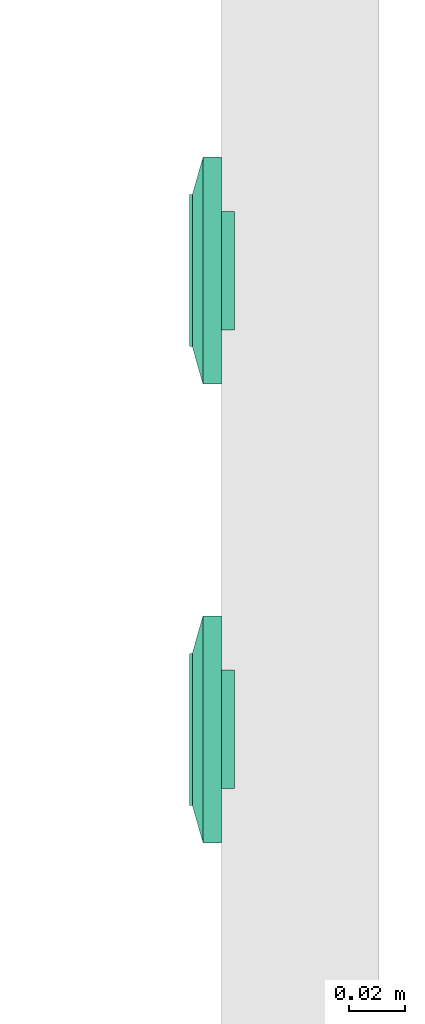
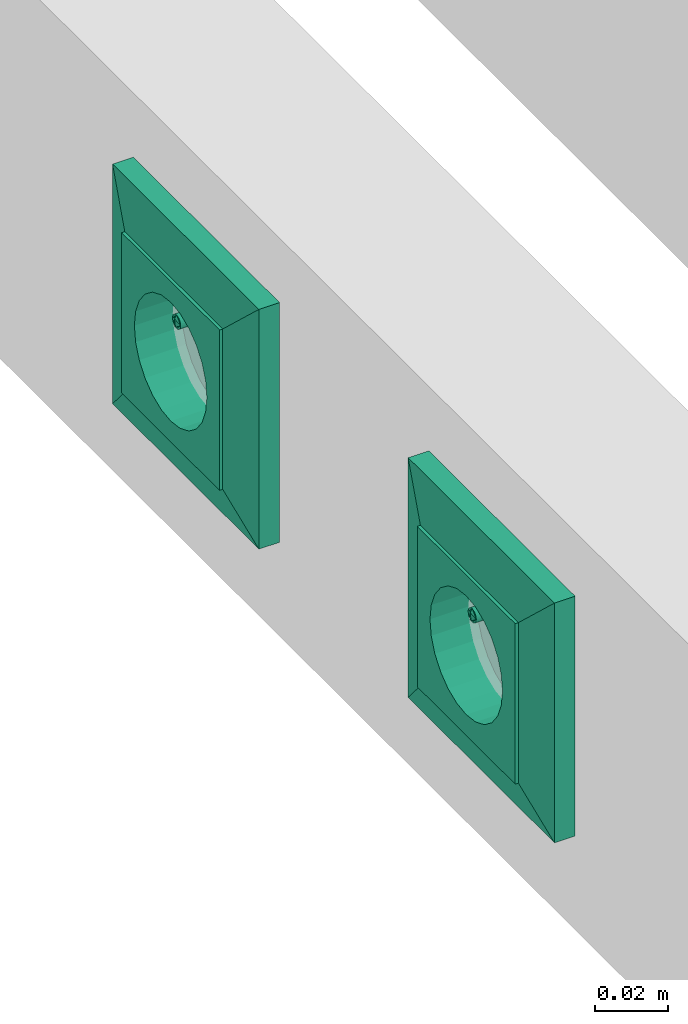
# One storey, part 47 of 166: 2 flow terminals.
"""IFC2X3 building model written with IfcOpenShell, lengths in metres."""

from ifc_helpers import new_model, entity, si_unit, converted_unit, derived_unit, direction, frame, origin, place, context, subcontext, project, spatial, face_set, surface_model, source, transform, mapped, type_object, type_shapes, element, save


model = new_model("IFC2X3")

# Units and contexts
model_context = context("Model", 3, precision=1e-05, world=origin(), true_north=direction((6.12303176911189e-17, 1.0)))
body_context = subcontext(model_context, "Body", "Model", "MODEL_VIEW")
ifc_project = project(units=[si_unit("LENGTHUNIT", "METRE"), si_unit("AREAUNIT", "SQUARE_METRE"), si_unit("VOLUMEUNIT", "CUBIC_METRE"), converted_unit("PLANEANGLEUNIT", "DEGREE", entity("IfcRatioMeasure", 0.0174532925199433), si_unit("PLANEANGLEUNIT", "RADIAN"), dimensions=[0, 0, 0, 0, 0, 0, 0]), si_unit("MASSUNIT", "GRAM", prefix="KILO"), derived_unit("MASSDENSITYUNIT", [(si_unit("MASSUNIT", "GRAM", prefix="KILO"), 1), (si_unit("LENGTHUNIT", "METRE"), -3)]), si_unit("TIMEUNIT", "SECOND"), si_unit("FREQUENCYUNIT", "HERTZ"), si_unit("THERMODYNAMICTEMPERATUREUNIT", "DEGREE_CELSIUS"), derived_unit("THERMALTRANSMITTANCEUNIT", [(si_unit("MASSUNIT", "GRAM", prefix="KILO"), 1), (si_unit("THERMODYNAMICTEMPERATUREUNIT", "KELVIN"), -1), (si_unit("TIMEUNIT", "SECOND"), -3)]), derived_unit("VOLUMETRICFLOWRATEUNIT", [(si_unit("LENGTHUNIT", "METRE"), 3), (si_unit("TIMEUNIT", "SECOND"), -1)]), si_unit("ELECTRICCURRENTUNIT", "AMPERE"), si_unit("ELECTRICVOLTAGEUNIT", "VOLT"), si_unit("POWERUNIT", "WATT"), si_unit("FORCEUNIT", "NEWTON"), si_unit("ILLUMINANCEUNIT", "LUX"), si_unit("LUMINOUSFLUXUNIT", "LUMEN"), si_unit("LUMINOUSINTENSITYUNIT", "CANDELA"), derived_unit("USERDEFINED", [(si_unit("MASSUNIT", "GRAM", prefix="KILO"), -1), (si_unit("LENGTHUNIT", "METRE"), -2), (si_unit("TIMEUNIT", "SECOND"), 3), (si_unit("LUMINOUSFLUXUNIT", "LUMEN"), 1)]), derived_unit("LINEARVELOCITYUNIT", [(si_unit("LENGTHUNIT", "METRE"), 1), (si_unit("TIMEUNIT", "SECOND"), -1)]), si_unit("PRESSUREUNIT", "PASCAL"), derived_unit("USERDEFINED", [(si_unit("LENGTHUNIT", "METRE"), -2), (si_unit("MASSUNIT", "GRAM", prefix="KILO"), 1), (si_unit("TIMEUNIT", "SECOND"), -2)])], contexts=[model_context])

# Site, building, storey
site_placement = place(None, origin())
site = spatial("IfcSite", under=ifc_project, at=site_placement, Name="Default", CompositionType="ELEMENT")
building_placement = place(site_placement, origin())
building = spatial("IfcBuilding", under=site, at=building_placement, CompositionType="ELEMENT")
storey_placement = place(building_placement, frame((0.0, 0.0, 4.27)))
storey = spatial("IfcBuildingStorey", under=building, at=storey_placement, Name="01", CompositionType="ELEMENT", Elevation=4.27)

# Flow terminals
light_fixture_type = type_object("IfcLightFixtureType", Name="IP20 ONDULEE", PredefinedType="NOTDEFINED")
shared_shape = source(origin(), body_context, "Body", "SurfaceModel", [
    surface_model("IfcFaceBasedSurfaceModel", [(-0.00225000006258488, 0.0127499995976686, 0.00949633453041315), (0.0, 0.0104999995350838, 0.00949633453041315), (0.0, 0.0115376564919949, 0.0101656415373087), (0.0, 0.0139623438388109, 0.0101656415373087), (0.0, 0.0144589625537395, 0.00984531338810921), (0.0, 0.0121178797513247, 0.0102778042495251), (0.0, 0.0133821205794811, 0.0102778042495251), (0.0, 0.0127499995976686, 0.010399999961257), (0.0, 0.0149999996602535, 0.00949633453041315), (0.00225000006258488, 0.0127499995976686, 0.00949633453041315), (0.0, 0.0110410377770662, 0.00984531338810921), (0.0, 0.0127499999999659, 0.00949633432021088), (0.00225000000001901, 0.0127499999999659, 0.00949633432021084), (0.00217333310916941, 0.0121676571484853, 0.00949633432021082), (0.00194855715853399, 0.0116249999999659, 0.00949633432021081), (0.00159099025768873, 0.0111590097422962, 0.00949633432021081), (0.001125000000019, 0.010801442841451, 0.00949633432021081), (0.00058234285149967, 0.0105766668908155, 0.00949633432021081), (0.0, 0.0104999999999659, 0.00949633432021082), (-0.000582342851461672, 0.0105766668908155, 0.00949633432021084), (-0.001124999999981, 0.010801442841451, 0.00949633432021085), (-0.00159099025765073, 0.0111590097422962, 0.00949633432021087), (-0.00194855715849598, 0.011624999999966, 0.00949633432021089), (-0.0021733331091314, 0.0121676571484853, 0.00949633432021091), (-0.00224999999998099, 0.012749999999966, 0.00949633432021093), (-0.00217333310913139, 0.0133323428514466, 0.00949633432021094), (-0.00194855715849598, 0.013874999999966, 0.00949633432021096), (-0.00159099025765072, 0.0143409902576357, 0.00949633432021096), (-0.00112499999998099, 0.0146985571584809, 0.00949633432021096), (-0.00058234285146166, 0.0149233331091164, 0.00949633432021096), (0.0, 0.0149999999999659, 0.00949633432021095), (0.000582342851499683, 0.0149233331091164, 0.00949633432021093), (0.00112500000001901, 0.0146985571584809, 0.00949633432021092), (0.00159099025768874, 0.0143409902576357, 0.00949633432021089), (0.001948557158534, 0.0138749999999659, 0.00949633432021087), (0.00217333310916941, 0.0133323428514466, 0.00949633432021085), (0.00225000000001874, 0.0127499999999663, -0.00360000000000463), (0.00217333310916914, 0.0121676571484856, -0.00360000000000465), (0.00194855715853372, 0.0116249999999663, -0.00360000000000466), (0.00159099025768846, 0.0111590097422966, -0.00360000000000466), (0.00112500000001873, 0.0108014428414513, -0.00360000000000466), (0.000582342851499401, 0.0105766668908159, -0.00360000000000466), (0.0, 0.0104999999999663, -0.00360000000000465), (-0.000582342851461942, 0.0105766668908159, -0.00360000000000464), (-0.00112499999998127, 0.0108014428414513, -0.00360000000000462), (-0.001590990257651, 0.0111590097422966, -0.0036000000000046), (-0.00194855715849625, 0.0116249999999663, -0.00360000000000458), (-0.00217333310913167, 0.0121676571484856, -0.00360000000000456), (-0.00224999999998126, 0.0127499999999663, -0.00360000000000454), (-0.00217333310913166, 0.013332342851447, -0.00360000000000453), (-0.00194855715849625, 0.0138749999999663, -0.00360000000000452), (-0.00159099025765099, 0.014340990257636, -0.00360000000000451), (-0.00112499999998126, 0.0146985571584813, -0.00360000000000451), (-0.000582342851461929, 0.0149233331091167, -0.00360000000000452), (0.0, 0.0149999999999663, -0.00360000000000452), (0.000582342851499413, 0.0149233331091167, -0.00360000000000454), (0.00112500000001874, 0.0146985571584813, -0.00360000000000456), (0.00159099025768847, 0.014340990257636, -0.00360000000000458), (0.00194855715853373, 0.0138749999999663, -0.0036000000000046), (0.00217333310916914, 0.013332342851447, -0.00360000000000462), (0.0270000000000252, 0.026999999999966, 0.0113999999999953), (-0.0269999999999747, 0.026999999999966, 0.0113999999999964), (-0.0269999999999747, -0.0270000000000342, 0.0113999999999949), (0.0270000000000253, -0.0270000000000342, 0.0113999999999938), (-0.0199999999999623, 0.0, 0.0113999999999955), (-0.0193185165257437, -0.00517638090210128, 0.0113999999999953), (-0.0173205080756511, -0.0100000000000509, 0.0113999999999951), (-0.0141421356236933, -0.0141421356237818, 0.011399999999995), (-0.00999999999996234, -0.0173205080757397, 0.0113999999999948), (-0.00517638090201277, -0.0193185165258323, 0.0113999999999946), (0.0, -0.0200000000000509, 0.0113999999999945), (0.00517638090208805, -0.0193185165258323, 0.0113999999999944), (0.0100000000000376, -0.0173205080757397, 0.0113999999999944), (0.0141421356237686, -0.0141421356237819, 0.0113999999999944), (0.0173205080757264, -0.010000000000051, 0.0113999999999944), (0.0193185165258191, -0.00517638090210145, 0.0113999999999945), (0.0200000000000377, 0.0, 0.0113999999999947), (0.0193185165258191, 0.00517638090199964, 0.0113999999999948), (0.0173205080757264, 0.0099999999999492, 0.011399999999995), (0.0141421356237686, 0.0141421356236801, 0.0113999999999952), (0.0100000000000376, 0.0173205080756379, 0.0113999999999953), (0.00517638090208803, 0.0193185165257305, 0.0113999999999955), (0.0, 0.0199999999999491, 0.0113999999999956), (-0.00517638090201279, 0.0193185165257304, 0.0113999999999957), (-0.00999999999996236, 0.0173205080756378, 0.0113999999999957), (-0.0141421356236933, 0.01414213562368, 0.0113999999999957), (-0.0173205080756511, 0.00999999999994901, 0.0113999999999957), (-0.0193185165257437, 0.00517638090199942, 0.0113999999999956), (0.0270000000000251, 0.0269999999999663, 0.00199999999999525), (0.0270000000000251, -0.0270000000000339, 0.00199999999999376), (-0.0269999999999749, -0.0270000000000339, 0.00199999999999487), (-0.0269999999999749, 0.0269999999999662, 0.00199999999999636), (0.0210000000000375, 0.0, 0.00199999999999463), (0.0202844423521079, -0.00543519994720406, 0.00199999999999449), (0.0181865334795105, -0.0105000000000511, 0.0019999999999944), (0.0148492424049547, -0.0148492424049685, 0.00199999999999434), (0.0105000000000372, -0.0181865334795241, 0.00199999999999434), (0.0054351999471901, -0.0202844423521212, 0.00199999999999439), (0.0, -0.0210000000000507, 0.00199999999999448), (-0.00543519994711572, -0.020284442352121, 0.00199999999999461), (-0.0104999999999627, -0.0181865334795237, 0.00199999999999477), (-0.0148492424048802, -0.014849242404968, 0.00199999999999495), (-0.0181865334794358, -0.0105000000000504, 0.00199999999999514), (-0.020284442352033, -0.00543519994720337, 0.00199999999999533), (-0.0209999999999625, 0.0, 0.00199999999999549), (-0.0202844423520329, 0.0054351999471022, 0.00199999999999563), (-0.0181865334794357, 0.0104999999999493, 0.00199999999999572), (-0.01484924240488, 0.0148492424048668, 0.00199999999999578), (-0.0104999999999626, 0.0181865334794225, 0.00199999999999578), (-0.00543519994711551, 0.0202844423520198, 0.00199999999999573), (0.0, 0.0209999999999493, 0.00199999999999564), (0.00543519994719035, 0.0202844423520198, 0.00199999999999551), (0.0105000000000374, 0.0181865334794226, 0.00199999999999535), (0.0148492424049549, 0.0148492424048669, 0.00199999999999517), (0.0181865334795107, 0.0104999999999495, 0.00199999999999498), (0.0202844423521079, 0.00543519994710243, 0.00199999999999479), (0.0200000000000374, 0.0, -0.00360000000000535), (0.0193185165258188, -0.00517638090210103, -0.00360000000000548), (0.0173205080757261, -0.0100000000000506, -0.00360000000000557), (0.0141421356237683, -0.0141421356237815, -0.00360000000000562), (0.0100000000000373, -0.0173205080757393, -0.00360000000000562), (0.00517638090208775, -0.0193185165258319, -0.00360000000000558), (0.0, -0.0200000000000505, -0.00360000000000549), (-0.00517638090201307, -0.0193185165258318, -0.00360000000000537), (-0.00999999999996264, -0.0173205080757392, -0.00360000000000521), (-0.0141421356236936, -0.0141421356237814, -0.00360000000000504), (-0.0173205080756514, -0.0100000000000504, -0.00360000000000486), (-0.019318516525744, -0.00517638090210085, -0.00360000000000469), (-0.0199999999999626, 0.0, -0.00360000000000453), (-0.0193185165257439, 0.00517638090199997, -0.0036000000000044), (-0.0173205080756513, 0.00999999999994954, -0.00360000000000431), (-0.0141421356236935, 0.0141421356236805, -0.00360000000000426), (-0.00999999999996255, 0.0173205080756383, -0.00360000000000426), (-0.00517638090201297, 0.0193185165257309, -0.0036000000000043), (0.0, 0.0199999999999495, -0.00360000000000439), (0.00517638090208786, 0.0193185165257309, -0.00360000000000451), (0.0100000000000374, 0.0173205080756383, -0.00360000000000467), (0.0141421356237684, 0.0141421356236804, -0.00360000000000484), (0.0173205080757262, 0.0099999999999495, -0.00360000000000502), (0.0193185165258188, 0.00517638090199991, -0.00360000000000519), (-0.0123499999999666, 0.0, -0.00360000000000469), (-0.0122562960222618, -0.000711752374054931, -0.00360000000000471), (-0.0119815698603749, -0.00137500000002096, -0.00360000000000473), (-0.0115445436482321, -0.00194454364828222, -0.00360000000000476), (-0.0109749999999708, -0.00238156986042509, -0.00360000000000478), (-0.0103117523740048, -0.00265629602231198, -0.0036000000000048), (-0.00959999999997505, -0.00275000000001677, -0.00360000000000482), (-0.0088882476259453, -0.00265629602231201, -0.00360000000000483), (-0.00822499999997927, -0.00238156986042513, -0.00360000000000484), (-0.00765545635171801, -0.00194454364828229, -0.00360000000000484), (-0.00721843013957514, -0.00137500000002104, -0.00360000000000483), (-0.00694370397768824, -0.000711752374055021, -0.00360000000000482), (-0.00684999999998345, 0.0, -0.0036000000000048), (-0.00694370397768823, 0.000711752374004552, -0.00360000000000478), (-0.00721843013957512, 0.00137499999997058, -0.00360000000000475), (-0.00765545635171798, 0.00194454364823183, -0.00360000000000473), (-0.00822499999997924, 0.00238156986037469, -0.0036000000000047), (-0.00888824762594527, 0.00265629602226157, -0.00360000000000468), (-0.00959999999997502, 0.00274999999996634, -0.00360000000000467), (-0.0103117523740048, 0.00265629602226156, -0.00360000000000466), (-0.0109749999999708, 0.00238156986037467, -0.00360000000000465), (-0.011544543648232, 0.00194454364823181, -0.00360000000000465), (-0.0119815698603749, 0.00137499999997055, -0.00360000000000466), (-0.0122562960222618, 0.000711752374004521, -0.00360000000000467), (0.00685000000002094, 0.0, -0.00360000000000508), (0.0069437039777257, -0.00071175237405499, -0.0036000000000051), (0.00721843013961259, -0.00137500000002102, -0.00360000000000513), (0.00765545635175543, -0.00194454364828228, -0.00360000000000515), (0.00822500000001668, -0.00238156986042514, -0.00360000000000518), (0.00888824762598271, -0.00265629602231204, -0.0036000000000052), (0.00960000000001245, -0.00275000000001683, -0.00360000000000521), (0.0103117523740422, -0.00265629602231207, -0.00360000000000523), (0.0109750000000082, -0.00238156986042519, -0.00360000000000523), (0.0115445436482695, -0.00194454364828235, -0.00360000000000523), (0.0119815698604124, -0.0013750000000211, -0.00360000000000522), (0.0122562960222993, -0.00071175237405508, -0.00360000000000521), (0.012350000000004, 0.0, -0.00360000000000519), (0.0122562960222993, 0.000711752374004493, -0.00360000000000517), (0.0119815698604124, 0.00137499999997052, -0.00360000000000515), (0.0115445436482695, 0.00194454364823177, -0.00360000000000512), (0.0109750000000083, 0.00238156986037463, -0.0036000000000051), (0.0103117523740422, 0.00265629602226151, -0.00360000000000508), (0.00960000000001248, 0.00274999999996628, -0.00360000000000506), (0.00888824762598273, 0.0026562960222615, -0.00360000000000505), (0.0082250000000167, 0.00238156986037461, -0.00360000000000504), (0.00765545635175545, 0.00194454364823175, -0.00360000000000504), (0.0072184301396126, 0.00137499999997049, -0.00360000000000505), (0.00694370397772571, 0.000711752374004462, -0.00360000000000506), (0.0210000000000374, 0.0, -0.00460000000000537), (0.0202844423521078, -0.00543519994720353, -0.00460000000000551), (0.0181865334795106, -0.0105000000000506, -0.0046000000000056), (0.0148492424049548, -0.0148492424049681, -0.00460000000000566), (0.0105000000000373, -0.0181865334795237, -0.00460000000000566), (0.00543519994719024, -0.0202844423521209, -0.00460000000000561), (0.0, -0.0210000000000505, -0.00460000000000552), (-0.00543519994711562, -0.0202844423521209, -0.00460000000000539), (-0.0104999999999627, -0.0181865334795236, -0.00460000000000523), (-0.0148492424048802, -0.0148492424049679, -0.00460000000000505), (-0.0181865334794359, -0.0105000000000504, -0.00460000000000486), (-0.0202844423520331, -0.00543519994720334, -0.00460000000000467), (-0.0209999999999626, 0.0, -0.00460000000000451), (-0.020284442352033, 0.00543519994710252, -0.00460000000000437), (-0.0181865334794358, 0.0104999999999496, -0.00460000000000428), (-0.0148492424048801, 0.0148492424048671, -0.00460000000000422), (-0.0104999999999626, 0.0181865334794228, -0.00460000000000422), (-0.00543519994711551, 0.02028444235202, -0.00460000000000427), (0.0, 0.0209999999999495, -0.00460000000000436), (0.00543519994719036, 0.02028444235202, -0.00460000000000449), (0.0105000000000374, 0.0181865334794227, -0.00460000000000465), (0.0148492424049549, 0.014849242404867, -0.00460000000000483), (0.0181865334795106, 0.0104999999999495, -0.00460000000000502), (0.0202844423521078, 0.00543519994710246, -0.00460000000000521), (-0.00684999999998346, 0.0, -0.0046000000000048), (-0.00694370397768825, 0.000711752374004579, -0.00460000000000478), (-0.00721843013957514, 0.00137499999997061, -0.00460000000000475), (-0.007655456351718, 0.00194454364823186, -0.00460000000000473), (-0.00822499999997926, 0.00238156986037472, -0.0046000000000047), (-0.00888824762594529, 0.0026562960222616, -0.00460000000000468), (-0.00959999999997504, 0.00274999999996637, -0.00460000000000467), (-0.0103117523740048, 0.00265629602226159, -0.00460000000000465), (-0.0109749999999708, 0.0023815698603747, -0.00460000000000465), (-0.0115445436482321, 0.00194454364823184, -0.00460000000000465), (-0.0119815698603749, 0.00137499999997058, -0.00460000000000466), (-0.0122562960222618, 0.000711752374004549, -0.00460000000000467), (-0.0123499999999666, 0.0, -0.00460000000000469), (-0.0122562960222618, -0.000711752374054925, -0.00460000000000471), (-0.0119815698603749, -0.00137500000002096, -0.00460000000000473), (-0.0115445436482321, -0.00194454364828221, -0.00460000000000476), (-0.0109749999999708, -0.00238156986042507, -0.00460000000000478), (-0.0103117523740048, -0.00265629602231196, -0.0046000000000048), (-0.00959999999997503, -0.00275000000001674, -0.00460000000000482), (-0.00888824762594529, -0.00265629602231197, -0.00460000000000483), (-0.00822499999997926, -0.00238156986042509, -0.00460000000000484), (-0.007655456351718, -0.00194454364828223, -0.00460000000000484), (-0.00721843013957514, -0.00137500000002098, -0.00460000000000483), (-0.00694370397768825, -0.000711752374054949, -0.00460000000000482), (0.012350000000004, 0.0, -0.00460000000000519), (0.0122562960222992, 0.000711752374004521, -0.00460000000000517), (0.0119815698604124, 0.00137499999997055, -0.00460000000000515), (0.0115445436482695, 0.0019445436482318, -0.00460000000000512), (0.0109750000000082, 0.00238156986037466, -0.0046000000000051), (0.0103117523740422, 0.00265629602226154, -0.00460000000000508), (0.00960000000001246, 0.00274999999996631, -0.00460000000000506), (0.00888824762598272, 0.00265629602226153, -0.00460000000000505), (0.00822500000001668, 0.00238156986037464, -0.00460000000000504), (0.00765545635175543, 0.00194454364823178, -0.00460000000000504), (0.00721843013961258, 0.00137499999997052, -0.00460000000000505), (0.00694370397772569, 0.00071175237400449, -0.00460000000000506), (0.00685000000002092, 0.0, -0.00460000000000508), (0.00694370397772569, -0.000711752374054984, -0.0046000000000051), (0.00721843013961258, -0.00137500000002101, -0.00460000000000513), (0.00765545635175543, -0.00194454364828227, -0.00460000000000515), (0.00822500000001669, -0.00238156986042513, -0.00460000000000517), (0.00888824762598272, -0.00265629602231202, -0.0046000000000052), (0.00960000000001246, -0.0027500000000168, -0.00460000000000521), (0.0103117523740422, -0.00265629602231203, -0.00460000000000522), (0.0109750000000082, -0.00238156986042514, -0.00460000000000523), (0.0115445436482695, -0.00194454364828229, -0.00460000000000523), (0.0119815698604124, -0.00137500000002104, -0.00460000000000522), (0.0122562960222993, -0.000711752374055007, -0.00460000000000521), (0.040350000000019, 0.0403499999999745, 0.00659999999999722), (0.040350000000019, -0.0403500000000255, 0.00659999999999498), (-0.0403499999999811, -0.0403500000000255, 0.00659999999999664), (-0.0403499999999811, 0.0403499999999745, 0.00659999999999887), (0.027000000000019, 0.0269999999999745, 0.00659999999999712), (-0.0269999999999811, 0.0269999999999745, 0.00659999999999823), (-0.026999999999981, -0.0270000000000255, 0.00659999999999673), (0.027000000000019, -0.0270000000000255, 0.00659999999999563), (0.027000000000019, 0.0269999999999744, 0.0103999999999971), (-0.026999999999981, 0.0269999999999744, 0.0103999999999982), (-0.026999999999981, -0.0270000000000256, 0.0103999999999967), (0.027000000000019, -0.0270000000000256, 0.0103999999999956), (0.040350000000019, 0.0403499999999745, 0.00659999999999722), (0.040350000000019, -0.0403500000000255, 0.00659999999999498), (-0.0403499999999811, -0.0403500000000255, 0.00659999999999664), (-0.0403499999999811, 0.0403499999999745, 0.00659999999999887), (-0.0269999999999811, 0.0269999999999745, 0.00659999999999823), (-0.0269999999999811, -0.0270000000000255, 0.00659999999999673), (0.0270000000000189, -0.0270000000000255, 0.00659999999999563), (0.0270000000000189, 0.0269999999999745, 0.00659999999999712), (0.0403500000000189, 0.0403499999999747, 0.0), (0.0403500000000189, -0.0403500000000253, 0.0), (-0.0403499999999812, -0.0403500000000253, 0.0), (-0.0403499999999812, 0.0403499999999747, 0.0), (0.0270000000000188, 0.0269999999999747, 0.0), (-0.0269999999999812, 0.0269999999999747, 0.0), (-0.0269999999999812, -0.0270000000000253, 0.0), (0.0270000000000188, -0.0270000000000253, 0.0)], [face_set([[[0, 1, 2]], [[3, 4, 2, 5]], [[6, 3, 5, 7]], [[2, 4, 0]], [[4, 8, 0]], [[3, 9, 8]], [[1, 9, 10]], [[2, 3, 6, 7]], [[3, 10, 9]], [[2, 10, 3]], [[11, 1, 0, 8]], [[11, 8, 9, 1]]]), face_set([[[12, 13, 14, 15, 16, 17, 18, 19, 20, 21, 22, 23, 24, 25, 26, 27, 28, 29, 30, 31, 32, 33, 34, 35]], [[36, 37, 38, 39, 40, 41, 42, 43, 44, 45, 46, 47, 48, 49, 50, 51, 52, 53, 54, 55, 56, 57, 58, 59]], [[48, 47, 23, 24]], [[47, 46, 22, 23]], [[45, 44, 20, 21]], [[46, 45, 21, 22]], [[44, 43, 19, 20]], [[18, 19, 43, 42]], [[42, 41, 17, 18]], [[41, 40, 16, 17]], [[39, 38, 14, 15]], [[40, 39, 15, 16]], [[38, 37, 13, 14]], [[12, 13, 37, 36]], [[36, 59, 35, 12]], [[59, 58, 34, 35]], [[57, 56, 32, 33]], [[58, 57, 33, 34]], [[56, 55, 31, 32]], [[30, 31, 55, 54]], [[54, 53, 29, 30]], [[53, 52, 28, 29]], [[51, 50, 26, 27]], [[52, 51, 27, 28]], [[50, 49, 25, 26]], [[24, 25, 49, 48]]]), face_set([[[60, 61, 62, 63], [64, 65, 66, 67, 68, 69, 70, 71, 72, 73, 74, 75, 76, 77, 78, 79, 80, 81, 82, 83, 84, 85, 86, 87]], [[88, 89, 90, 91], [92, 93, 94, 95, 96, 97, 98, 99, 100, 101, 102, 103, 104, 105, 106, 107, 108, 109, 110, 111, 112, 113, 114, 115]], [[61, 60, 88, 91]], [[62, 61, 91, 90]], [[63, 62, 90, 89]], [[60, 63, 89, 88]], [[116, 117, 118, 119, 120, 121, 122, 123, 124, 125, 126, 127, 128, 129, 130, 131, 132, 133, 134, 135, 136, 137, 138, 139], [140, 141, 142, 143, 144, 145, 146, 147, 148, 149, 150, 151, 152, 153, 154, 155, 156, 157, 158, 159, 160, 161, 162, 163], [164, 165, 166, 167, 168, 169, 170, 171, 172, 173, 174, 175, 176, 177, 178, 179, 180, 181, 182, 183, 184, 185, 186, 187]], [[64, 128, 127, 65]], [[65, 127, 126, 66]], [[67, 125, 124, 68]], [[66, 126, 125, 67]], [[68, 124, 123, 69]], [[122, 70, 69, 123]], [[70, 122, 121, 71]], [[71, 121, 120, 72]], [[73, 119, 118, 74]], [[72, 120, 119, 73]], [[74, 118, 117, 75]], [[116, 76, 75, 117]], [[76, 116, 139, 77]], [[77, 139, 138, 78]], [[79, 137, 136, 80]], [[78, 138, 137, 79]], [[80, 136, 135, 81]], [[134, 82, 81, 135]], [[82, 134, 133, 83]], [[83, 133, 132, 84]], [[84, 132, 131, 85]], [[85, 131, 130, 86]], [[130, 129, 87, 86]], [[64, 87, 129, 128]], [[188, 189, 190, 191, 192, 193, 194, 195, 196, 197, 198, 199, 200, 201, 202, 203, 204, 205, 206, 207, 208, 209, 210, 211], [212, 213, 214, 215, 216, 217, 218, 219, 220, 221, 222, 223, 224, 225, 226, 227, 228, 229, 230, 231, 232, 233, 234, 235], [236, 237, 238, 239, 240, 241, 242, 243, 244, 245, 246, 247, 248, 249, 250, 251, 252, 253, 254, 255, 256, 257, 258, 259]], [[200, 199, 103, 104]], [[199, 198, 102, 103]], [[197, 196, 100, 101]], [[198, 197, 101, 102]], [[196, 195, 99, 100]], [[98, 99, 195, 194]], [[194, 193, 97, 98]], [[193, 192, 96, 97]], [[191, 190, 94, 95]], [[192, 191, 95, 96]], [[190, 189, 93, 94]], [[92, 93, 189, 188]], [[188, 211, 115, 92]], [[211, 210, 114, 115]], [[209, 208, 112, 113]], [[210, 209, 113, 114]], [[208, 207, 111, 112]], [[110, 111, 207, 206]], [[206, 205, 109, 110]], [[205, 204, 108, 109]], [[203, 202, 106, 107]], [[204, 203, 107, 108]], [[202, 201, 105, 106]], [[104, 105, 201, 200]], [[141, 225, 226, 142]], [[140, 224, 225, 141]], [[144, 228, 229, 145]], [[143, 227, 228, 144]], [[142, 226, 227, 143]], [[230, 146, 145, 229]], [[149, 233, 232, 148]], [[148, 232, 231, 147]], [[152, 212, 235, 151]], [[151, 235, 234, 150]], [[150, 234, 233, 149]], [[146, 230, 231, 147]], [[154, 214, 213, 153]], [[153, 213, 212, 152]], [[157, 217, 216, 156]], [[156, 216, 215, 155]], [[155, 215, 214, 154]], [[218, 158, 157, 217]], [[160, 220, 221, 161]], [[159, 219, 220, 160]], [[163, 223, 224, 140]], [[162, 222, 223, 163]], [[161, 221, 222, 162]], [[158, 218, 219, 159]], [[166, 250, 249, 165]], [[165, 249, 248, 164]], [[169, 253, 252, 168]], [[168, 252, 251, 167]], [[167, 251, 250, 166]], [[254, 170, 169, 253]], [[172, 256, 257, 173]], [[171, 255, 256, 172]], [[175, 259, 236, 176]], [[174, 258, 259, 175]], [[173, 257, 258, 174]], [[170, 254, 255, 171]], [[177, 237, 238, 178]], [[176, 236, 237, 177]], [[180, 240, 241, 181]], [[179, 239, 240, 180]], [[178, 238, 239, 179]], [[242, 182, 181, 241]], [[185, 245, 244, 184]], [[184, 244, 243, 183]], [[164, 248, 247, 187]], [[187, 247, 246, 186]], [[186, 246, 245, 185]], [[182, 242, 243, 183]]]), face_set([[[260, 261, 262, 263], [264, 265, 266, 267]], [[260, 268, 269, 263]], [[263, 269, 270, 262]], [[262, 270, 271, 261]], [[261, 271, 268, 260]], [[264, 265, 269, 268]], [[265, 266, 270, 269]], [[266, 267, 271, 270]], [[268, 271, 267, 264]]]), face_set([[[272, 273, 274, 275], [276, 277, 278, 279]], [[280, 281, 282, 283], [284, 285, 286, 287]], [[275, 272, 280, 283]], [[274, 275, 283, 282]], [[273, 274, 282, 281]], [[272, 273, 281, 280]], [[284, 285, 276, 279]], [[285, 286, 277, 276]], [[286, 287, 278, 277]], [[279, 278, 287, 284]]])]),
])
type_shapes(light_fixture_type, [shared_shape])
for number, where, z_axis, x_axis in (
    (1, (33.3667436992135, -188.853274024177, 4.70800000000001), (-1.0, 0.0, 0.0), (0.0, -1.0, 0.0)),
    (2, (33.3667436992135, -189.016274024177, 4.70800000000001), (-1.0, 0.0, 0.0), (0.0, -1.0, 0.0)),
):
    element("IfcFlowTerminal", number, at=place(building_placement, frame(where, z_axis=z_axis, x_axis=x_axis)), inside=storey, type_object=light_fixture_type, Name="INT Prise de courant:IP20 ONDULEE", ObjectType="INT Prise de courant:IP20 ONDULEE", context=body_context, shape_type="MappedRepresentation", body=[
        mapped(shared_shape, transform((0.0, 0.0, 0.0), scale=1.0)),
    ])

save(model, "model.ifc")
